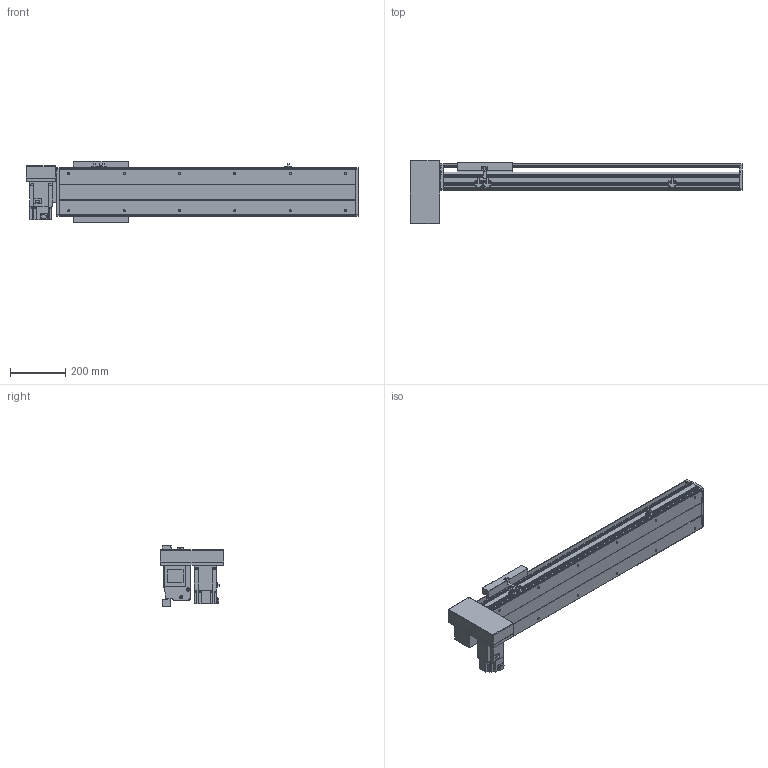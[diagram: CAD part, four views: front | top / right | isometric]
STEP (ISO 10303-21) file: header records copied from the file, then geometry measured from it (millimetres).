
FILE_DESCRIPTION(/* description */ ('STEP AP214'),/* implementation_level */ '2;1');
FILE_NAME(/* name */ 'PBS200-P40-S700-RD-T75-C1-N(0)',/* time_stamp */ '2022-06-11T09:28:25+02:00',/* author */ ('License CC BY-ND 4.0'),/* organization */ ('CADENAS'),/* preprocessor_version */ 'ST-DEVELOPER v18.102',/* originating_system */ 'PARTsolutions',/* authorisation */ ' ');
FILE_SCHEMA (('AUTOMOTIVE_DESIGN {1 0 10303 214 3 1 1}'));
Length unit declared in the file: millimetre
Products named in the file (7): PBS200-P40-S700-RD-T75-C1-N(0); PBS200_sensor; PBS200_plant; PBS200_sliser; T75-p1; PBS200T-RD_motors; PBS200-S700()_body
Assembly tree (8 placements, depth 2):
  PBS200-P40-S700-RD-T75-C1-N(0)
    PBS200_sensor  x3
    PBS200_plant
    PBS200_sliser
    T75-p1
    PBS200T-RD_motors
    PBS200-S700()_body
Bounding box: 1200 x 230 x 221 mm (x, y, z)
Volume: 9364336.4 mm3; surface area: 1523968.6 mm2
Topology: 8 solids, 8 shells, 908 faces, 2354 edges, 1536 vertices
Faces by surface type: plane 570, cylinder 294, cone 44
Full cylindrical faces by diameter (mm): 2.459 x6, 3.242 x4, 4.5 x6, 4.917 x4, 5 x6, 6 x7, 6.6 x8, 6.647 x16, 8 x6, 10 x4, 12 x8, 38 x2, 40 x1, 70 x1
Entity records: 24341 total; most frequent: DIRECTION 4279, CARTESIAN_POINT 4156, ORIENTED_EDGE 3958, EDGE_CURVE 1979, AXIS2_PLACEMENT_3D 1483, VERTEX_POINT 1360, LINE 1313, VECTOR 1313
